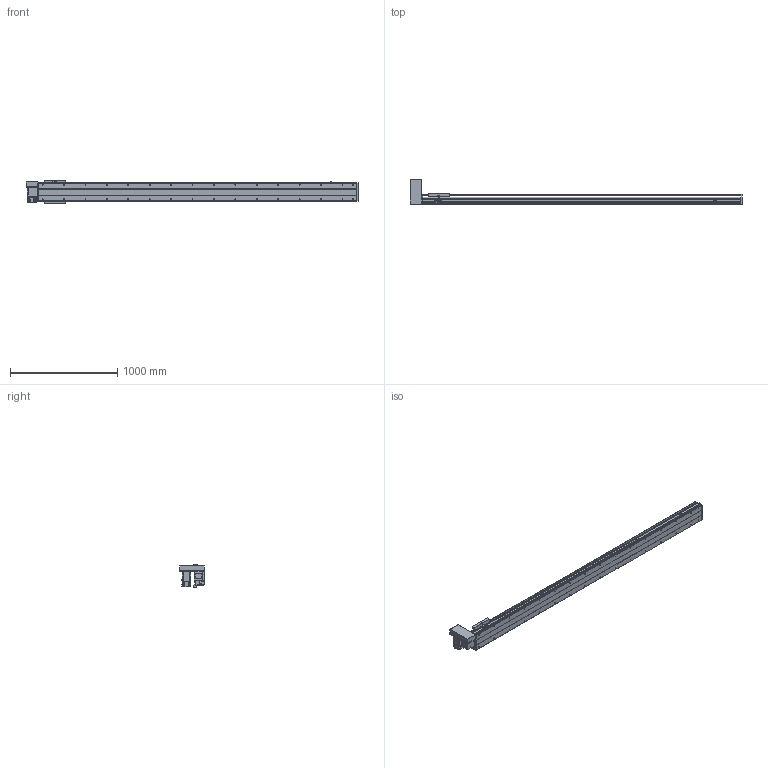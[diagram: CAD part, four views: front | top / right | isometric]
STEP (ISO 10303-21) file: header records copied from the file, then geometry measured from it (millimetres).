
FILE_DESCRIPTION(/* description */ ('STEP AP214'),/* implementation_level */ '2;1');
FILE_NAME(/* name */ 'PBS200-P40-S2600-RU-T75-C1-N(0)',/* time_stamp */ '2022-06-11T09:37:31+02:00',/* author */ ('License CC BY-ND 4.0'),/* organization */ ('CADENAS'),/* preprocessor_version */ 'ST-DEVELOPER v18.102',/* originating_system */ 'PARTsolutions',/* authorisation */ ' ');
FILE_SCHEMA (('AUTOMOTIVE_DESIGN {1 0 10303 214 3 1 1}'));
Length unit declared in the file: millimetre
Products named in the file (7): PBS200-P40-S2600-RU-T75-C1-N(0); PBS200_sensor; PBS200_plant; PBS200_sliser; T75-p1; PBS200T-RU_motors; PBS200-S2600()_body
Assembly tree (8 placements, depth 2):
  PBS200-P40-S2600-RU-T75-C1-N(0)
    PBS200_sensor  x3
    PBS200_plant
    PBS200_sliser
    T75-p1
    PBS200T-RU_motors
    PBS200-S2600()_body
Bounding box: 3100 x 231 x 221 mm (x, y, z)
Volume: 21228229.1 mm3; surface area: 3394880.5 mm2
Topology: 8 solids, 8 shells, 968 faces, 2454 edges, 1596 vertices
Faces by surface type: plane 590, cylinder 314, cone 64
Full cylindrical faces by diameter (mm): 2.459 x6, 3.242 x4, 4.5 x6, 4.917 x4, 5 x6, 6 x7, 6.6 x8, 6.647 x36, 8 x6, 10 x4, 12 x8, 38 x2, 40 x1, 70 x1
Entity records: 25541 total; most frequent: DIRECTION 4519, CARTESIAN_POINT 4336, ORIENTED_EDGE 4078, EDGE_CURVE 2039, AXIS2_PLACEMENT_3D 1603, VERTEX_POINT 1420, LINE 1313, VECTOR 1313
